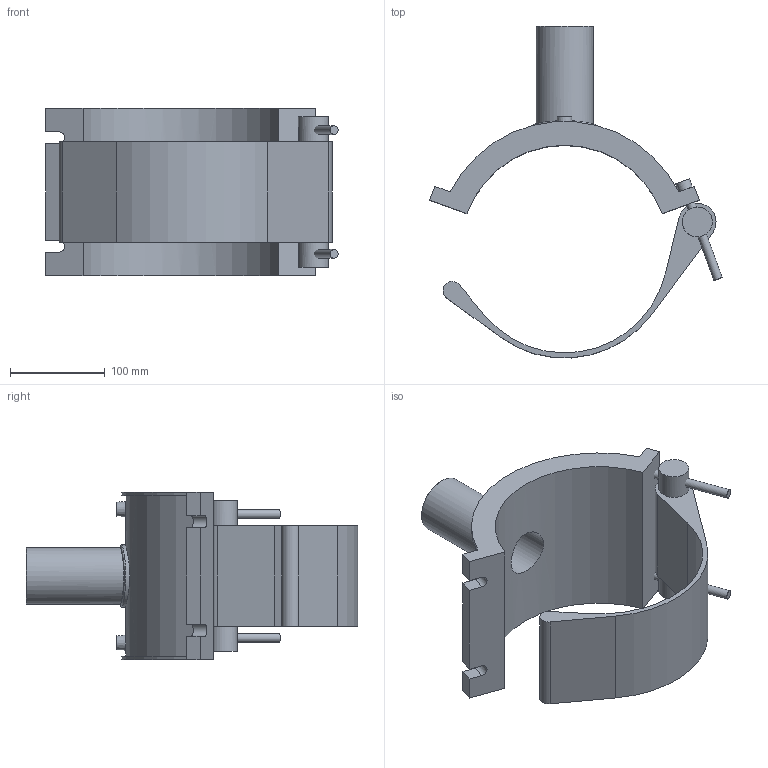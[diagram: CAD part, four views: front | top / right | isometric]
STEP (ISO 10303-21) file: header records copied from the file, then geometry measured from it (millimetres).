
FILE_DESCRIPTION(/* description */ ('PLASSON BRANCH SADDLE 8'''' x 2'''''),/* implementation_level */ '2;1');
FILE_NAME(/* name */ 'C:\Dropbox\KIMPROJECTS-Inventor 2019\99-16-3568-Processing Inch\ASTM ElectroFusion 2021\5958B-2\5958BB03080020.ipt.stp',/* time_stamp */ '2021-08-30T09:53:49+03:00',/* author */ ('KIM'),/* organization */ (''),/* preprocessor_version */ 'ST-DEVELOPER v17.2',/* originating_system */ 'Autodesk Inventor 2019',/* authorisation */ '');
FILE_SCHEMA (('AUTOMOTIVE_DESIGN { 1 0 10303 214 3 1 1 }'));
Length unit declared in the file: inch
Products named in the file (1): 5958BB03080020
Bounding box: 307.98 x 349.68 x 176.02 mm (x, y, z)
Volume: 1807894.1 mm3; surface area: 288241.3 mm2
Topology: 4 solids, 4 shells, 65 faces, 147 edges, 102 vertices
Faces by surface type: plane 37, cylinder 24, cone 3, bspline 1
Full cylindrical faces by diameter (mm): 4 x2, 9.185 x2, 10 x2, 15.309 x2, 31.493 x2, 48.08 x1, 60.1 x1, 66.11 x1
Entity records: 2269 total; most frequent: CARTESIAN_POINT 712, DIRECTION 322, ORIENTED_EDGE 294, EDGE_CURVE 147, AXIS2_PLACEMENT_3D 121, VERTEX_POINT 102, LINE 80, VECTOR 80
